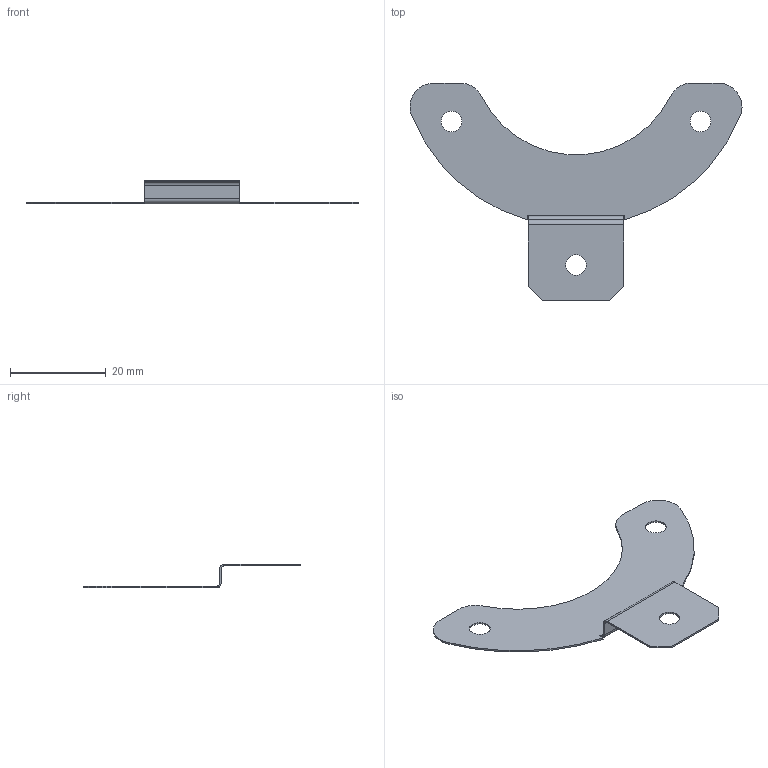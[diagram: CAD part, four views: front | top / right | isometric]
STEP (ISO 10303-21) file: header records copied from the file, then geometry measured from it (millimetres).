
FILE_DESCRIPTION (( 'STEP AP214' ), '1' );
FILE_NAME ('Žæ•t—p”Âƒoƒl.STEP', '2024-07-19T00:02:25', ( '' ), ( '' ), 'SwSTEP 2.0', 'SolidWorks 2023', '' );
FILE_SCHEMA (( 'AUTOMOTIVE_DESIGN' ));
Length unit declared in the file: millimetre
Products named in the file (1): 取付用板バネ
Bounding box: 69.32 x 45.5 x 5 mm (x, y, z)
Volume: 523.5 mm3; surface area: 3082.8 mm2
Topology: 1 solids, 1 shells, 43 faces, 107 edges, 66 vertices
Faces by surface type: plane 25, cylinder 18
Entity records: 1304 total; most frequent: DIRECTION 231, CARTESIAN_POINT 217, ORIENTED_EDGE 214, EDGE_CURVE 107, AXIS2_PLACEMENT_3D 80, LINE 71, VECTOR 71, VERTEX_POINT 66
